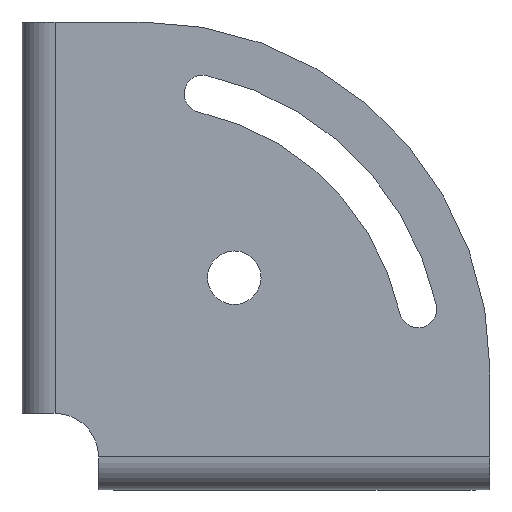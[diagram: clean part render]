
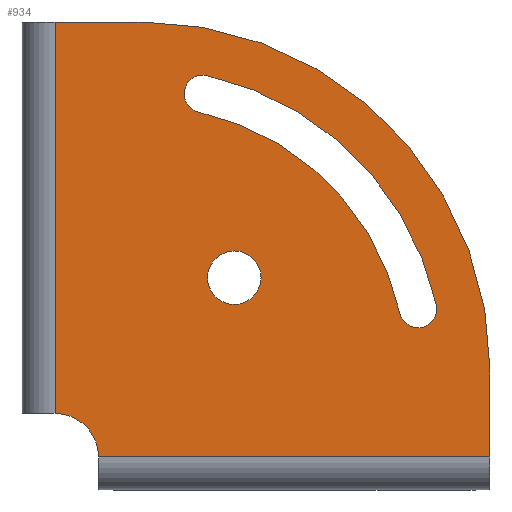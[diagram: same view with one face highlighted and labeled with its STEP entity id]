
A CAD part, front view. The second image highlights one B-rep face of the part: STEP entity #934.
In plain terms, the highlighted planar face has unit normal (0, -1, 0).
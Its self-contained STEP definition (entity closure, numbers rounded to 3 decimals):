
#10 = ORIENTED_EDGE ( 'NONE', *, *, #126, .T. ) ;
#24 = VECTOR ( 'NONE', #690, 1000. ) ;
#25 = DIRECTION ( 'NONE',  ( 0., 0., 1. ) ) ;
#35 = EDGE_CURVE ( 'NONE', #70, #146, #243, .T. ) ;
#70 = VERTEX_POINT ( 'NONE', #345 ) ;
#71 = AXIS2_PLACEMENT_3D ( 'NONE', #1188, #260, #1194 ) ;
#73 = CARTESIAN_POINT ( 'NONE',  ( 91.278, -4., 34.906 ) ) ;
#78 = ORIENTED_EDGE ( 'NONE', *, *, #860, .T. ) ;
#79 = VERTEX_POINT ( 'NONE', #73 ) ;
#126 = EDGE_CURVE ( 'NONE', #866, #1204, #1499, .T. ) ;
#128 = EDGE_CURVE ( 'NONE', #79, #70, #1532, .T. ) ;
#139 = CARTESIAN_POINT ( 'NONE',  ( 44.813, -4., 35.063 ) ) ;
#143 = ORIENTED_EDGE ( 'NONE', *, *, #35, .T. ) ;
#146 = VERTEX_POINT ( 'NONE', #760 ) ;
#158 = VERTEX_POINT ( 'NONE', #1020 ) ;
#161 = EDGE_LOOP ( 'NONE', ( #872, #1517, #370, #10, #78, #1183 ) ) ;
#172 = CARTESIAN_POINT ( 'NONE',  ( 37.581, -4., 83.479 ) ) ;
#179 = CARTESIAN_POINT ( 'NONE',  ( 44.813, -4., 41.213 ) ) ;
#200 = ORIENTED_EDGE ( 'NONE', *, *, #128, .T. ) ;
#226 = EDGE_CURVE ( 'NONE', #1667, #948, #1004, .T. ) ;
#243 = CIRCLE ( 'NONE', #1408, 60.7 ) ;
#260 = DIRECTION ( 'NONE',  ( 0., -1., 0. ) ) ;
#291 = EDGE_CURVE ( 'NONE', #1066, #1231, #870, .T. ) ;
#303 = DIRECTION ( 'NONE',  ( 0., 0., 1. ) ) ;
#309 = EDGE_LOOP ( 'NONE', ( #1436, #1069 ) ) ;
#316 = DIRECTION ( 'NONE',  ( 0., 0., 1. ) ) ;
#326 = FACE_OUTER_BOUND ( 'NONE', #161, .T. ) ;
#345 = CARTESIAN_POINT ( 'NONE',  ( 82.879, -4., 33.056 ) ) ;
#360 = CARTESIAN_POINT ( 'NONE',  ( 87.079, -4., 33.981 ) ) ;
#370 = ORIENTED_EDGE ( 'NONE', *, *, #383, .T. ) ;
#383 = EDGE_CURVE ( 'NONE', #158, #866, #1378, .T. ) ;
#387 = LINE ( 'NONE', #957, #24 ) ;
#390 = DIRECTION ( 'NONE',  ( 0., 1., 0. ) ) ;
#454 = DIRECTION ( 'NONE',  ( 1., 0., 0. ) ) ;
#469 = CIRCLE ( 'NONE', #500, 69.3 ) ;
#495 = AXIS2_PLACEMENT_3D ( 'NONE', #1634, #834, #25 ) ;
#498 = DIRECTION ( 'NONE',  ( 0., 0., 1. ) ) ;
#500 = AXIS2_PLACEMENT_3D ( 'NONE', #1687, #746, #1541 ) ;
#508 = DIRECTION ( 'NONE',  ( 0., -1., 0. ) ) ;
#575 = EDGE_CURVE ( 'NONE', #1231, #79, #469, .T. ) ;
#645 = VECTOR ( 'NONE', #840, 1000. ) ;
#661 = CARTESIAN_POINT ( 'NONE',  ( 23.6, -4., 100. ) ) ;
#690 = DIRECTION ( 'NONE',  ( 0., 0., -1. ) ) ;
#695 = CIRCLE ( 'NONE', #723, 10. ) ;
#702 = CARTESIAN_POINT ( 'NONE',  ( 23.6, -4., 100. ) ) ;
#707 = VECTOR ( 'NONE', #454, 1000. ) ;
#709 = CARTESIAN_POINT ( 'NONE',  ( 3.6, -4., 0. ) ) ;
#723 = AXIS2_PLACEMENT_3D ( 'NONE', #709, #1645, #843 ) ;
#738 = DIRECTION ( 'NONE',  ( 0., -1., 0. ) ) ;
#746 = DIRECTION ( 'NONE',  ( 0., 1., 0. ) ) ;
#760 = CARTESIAN_POINT ( 'NONE',  ( 36.656, -4., 79.279 ) ) ;
#782 = ORIENTED_EDGE ( 'NONE', *, *, #1110, .T. ) ;
#813 = AXIS2_PLACEMENT_3D ( 'NONE', #179, #1109, #316 ) ;
#834 = DIRECTION ( 'NONE',  ( 0., 1., 0. ) ) ;
#840 = DIRECTION ( 'NONE',  ( -1., 0., 0. ) ) ;
#843 = DIRECTION ( 'NONE',  ( 0., 0., 1. ) ) ;
#860 = EDGE_CURVE ( 'NONE', #1204, #985, #1149, .T. ) ;
#866 = VERTEX_POINT ( 'NONE', #1275 ) ;
#870 = CIRCLE ( 'NONE', #495, 4.3 ) ;
#872 = ORIENTED_EDGE ( 'NONE', *, *, #1082, .T. ) ;
#934 = ADVANCED_FACE ( 'NONE', ( #1347, #1018, #326 ), #1732, .T. ) ;
#948 = VERTEX_POINT ( 'NONE', #1588 ) ;
#957 = CARTESIAN_POINT ( 'NONE',  ( 3.6, -4., 100. ) ) ;
#985 = VERTEX_POINT ( 'NONE', #661 ) ;
#990 = AXIS2_PLACEMENT_3D ( 'NONE', #360, #1289, #498 ) ;
#994 = AXIS2_PLACEMENT_3D ( 'NONE', #1304, #508, #1441 ) ;
#1000 = LINE ( 'NONE', #702, #645 ) ;
#1004 = CIRCLE ( 'NONE', #1663, 6.15 ) ;
#1018 = FACE_BOUND ( 'NONE', #1284, .T. ) ;
#1020 = CARTESIAN_POINT ( 'NONE',  ( 13.6, -4., 0. ) ) ;
#1052 = AXIS2_PLACEMENT_3D ( 'NONE', #172, #1096, #303 ) ;
#1066 = VERTEX_POINT ( 'NONE', #1360 ) ;
#1069 = ORIENTED_EDGE ( 'NONE', *, *, #226, .T. ) ;
#1082 = EDGE_CURVE ( 'NONE', #1602, #1626, #387, .T. ) ;
#1096 = DIRECTION ( 'NONE',  ( 0., 1., 0. ) ) ;
#1109 = DIRECTION ( 'NONE',  ( 0., 1., 0. ) ) ;
#1110 = EDGE_CURVE ( 'NONE', #146, #1066, #1403, .T. ) ;
#1149 = CIRCLE ( 'NONE', #994, 80. ) ;
#1162 = EDGE_CURVE ( 'NONE', #985, #1602, #1000, .T. ) ;
#1181 = VECTOR ( 'NONE', #1286, 1000. ) ;
#1183 = ORIENTED_EDGE ( 'NONE', *, *, #1162, .T. ) ;
#1186 = CARTESIAN_POINT ( 'NONE',  ( 44.813, -4., 41.213 ) ) ;
#1188 = CARTESIAN_POINT ( 'NONE',  ( 23.6, -4., 20. ) ) ;
#1194 = DIRECTION ( 'NONE',  ( 0., 0., -1. ) ) ;
#1195 = CARTESIAN_POINT ( 'NONE',  ( 3.6, -4., 100. ) ) ;
#1204 = VERTEX_POINT ( 'NONE', #1385 ) ;
#1231 = VERTEX_POINT ( 'NONE', #1707 ) ;
#1250 = CARTESIAN_POINT ( 'NONE',  ( 3.6, -4., 0. ) ) ;
#1264 = ORIENTED_EDGE ( 'NONE', *, *, #291, .T. ) ;
#1275 = CARTESIAN_POINT ( 'NONE',  ( 103.6, -4., 0. ) ) ;
#1284 = EDGE_LOOP ( 'NONE', ( #782, #1264, #1607, #200, #143 ) ) ;
#1286 = DIRECTION ( 'NONE',  ( 0., 0., 1. ) ) ;
#1289 = DIRECTION ( 'NONE',  ( 0., 1., 0. ) ) ;
#1304 = CARTESIAN_POINT ( 'NONE',  ( 23.6, -4., 20. ) ) ;
#1315 = DIRECTION ( 'NONE',  ( 0., 0., 1. ) ) ;
#1335 = CARTESIAN_POINT ( 'NONE',  ( 3.6, -4., 10. ) ) ;
#1347 = FACE_BOUND ( 'NONE', #309, .T. ) ;
#1360 = CARTESIAN_POINT ( 'NONE',  ( 37.581, -4., 87.779 ) ) ;
#1378 = LINE ( 'NONE', #1250, #707 ) ;
#1385 = CARTESIAN_POINT ( 'NONE',  ( 103.6, -4., 20. ) ) ;
#1401 = CIRCLE ( 'NONE', #813, 6.15 ) ;
#1403 = CIRCLE ( 'NONE', #1052, 4.3 ) ;
#1408 = AXIS2_PLACEMENT_3D ( 'NONE', #1537, #738, #1680 ) ;
#1436 = ORIENTED_EDGE ( 'NONE', *, *, #1529, .T. ) ;
#1441 = DIRECTION ( 'NONE',  ( 0., 0., -1. ) ) ;
#1499 = LINE ( 'NONE', #1551, #1181 ) ;
#1517 = ORIENTED_EDGE ( 'NONE', *, *, #1524, .T. ) ;
#1524 = EDGE_CURVE ( 'NONE', #1626, #158, #695, .T. ) ;
#1529 = EDGE_CURVE ( 'NONE', #948, #1667, #1401, .T. ) ;
#1532 = CIRCLE ( 'NONE', #990, 4.3 ) ;
#1537 = CARTESIAN_POINT ( 'NONE',  ( 23.6, -4., 20. ) ) ;
#1541 = DIRECTION ( 'NONE',  ( 0., 0., 1. ) ) ;
#1551 = CARTESIAN_POINT ( 'NONE',  ( 103.6, -4., 0. ) ) ;
#1588 = CARTESIAN_POINT ( 'NONE',  ( 44.813, -4., 47.363 ) ) ;
#1602 = VERTEX_POINT ( 'NONE', #1195 ) ;
#1607 = ORIENTED_EDGE ( 'NONE', *, *, #575, .T. ) ;
#1626 = VERTEX_POINT ( 'NONE', #1335 ) ;
#1634 = CARTESIAN_POINT ( 'NONE',  ( 37.581, -4., 83.479 ) ) ;
#1645 = DIRECTION ( 'NONE',  ( 0., 1., 0. ) ) ;
#1663 = AXIS2_PLACEMENT_3D ( 'NONE', #1186, #390, #1315 ) ;
#1667 = VERTEX_POINT ( 'NONE', #139 ) ;
#1680 = DIRECTION ( 'NONE',  ( 0., 0., -1. ) ) ;
#1687 = CARTESIAN_POINT ( 'NONE',  ( 23.6, -4., 20. ) ) ;
#1707 = CARTESIAN_POINT ( 'NONE',  ( 38.506, -4., 87.678 ) ) ;
#1732 = PLANE ( 'NONE',  #71 ) ;
